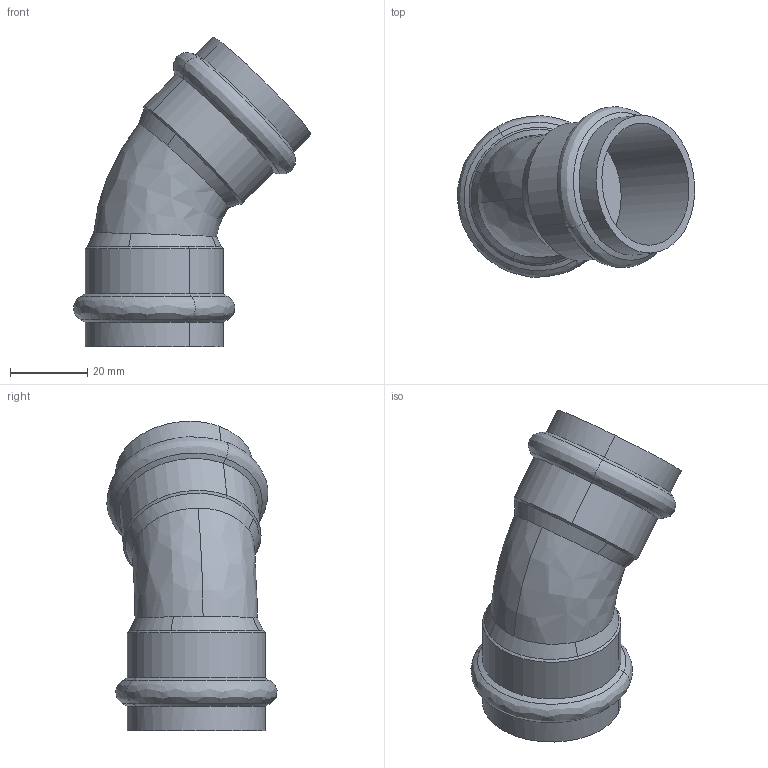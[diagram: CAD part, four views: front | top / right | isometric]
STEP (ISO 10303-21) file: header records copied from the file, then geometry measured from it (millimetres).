
FILE_DESCRIPTION(('STEP AP214'),'1');
FILE_NAME('pim0004547.stp','2015-04-30T15:16:19',('Cad-Pim'),('TransMagic, Inc.'),'TMR11sp0','TransMagic R11',' ');
FILE_SCHEMA(('AUTOMOTIVE_DESIGN'));
Length unit declared in the file: millimetre
Products named in the file (1): pim0004547
Bounding box: 61.37 x 44.06 x 80.08 mm (x, y, z)
Volume: 37167.1 mm3; surface area: 16389.3 mm2
Topology: 1 solids, 1 shells, 39 faces, 104 edges, 69 vertices
Faces by surface type: cone 16, cylinder 12, bspline 11
Entity records: 2182 total; most frequent: CARTESIAN_POINT 1011, ORIENTED_EDGE 208, DIRECTION 143, EDGE_CURVE 104, VERTEX_POINT 69, AXIS2_PLACEMENT_3D 57, EDGE_LOOP 41, STYLED_ITEM 40
